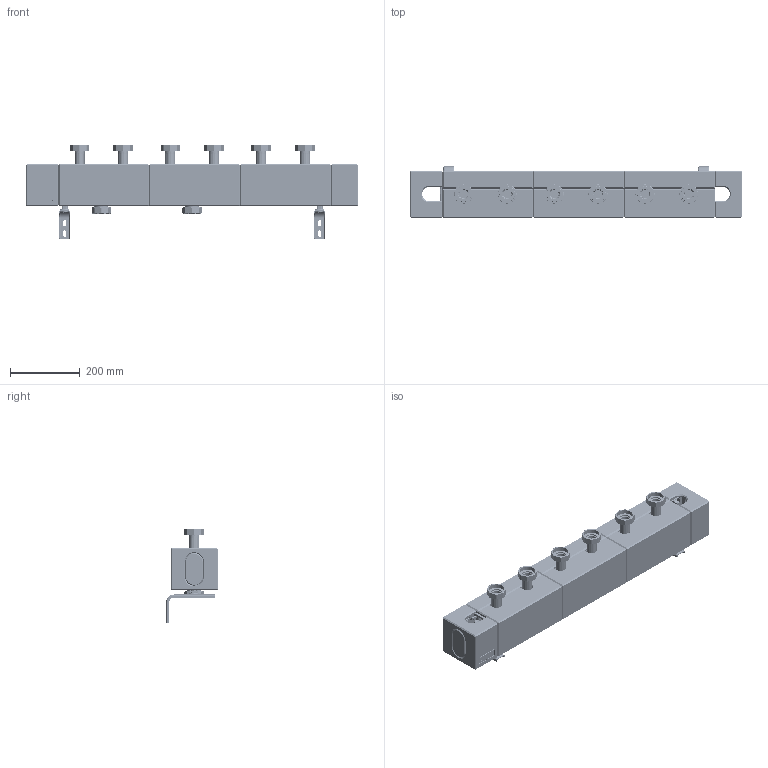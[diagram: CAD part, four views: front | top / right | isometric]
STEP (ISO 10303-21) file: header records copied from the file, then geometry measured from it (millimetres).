
FILE_DESCRIPTION (( 'STEP AP214' ), '1' );
FILE_NAME ('HSM_ProFusion_125-3_Multifunkcyjny_rozdzielacz_79623_0_3D_AFRISO.STEP', '2025-11-18T13:56:13', ( '' ), ( '' ), 'SwSTEP 2.0', 'SolidWorks 2023', '' );
FILE_SCHEMA (( 'AUTOMOTIVE_DESIGN' ));
Length unit declared in the file: millimetre
Products named in the file (46): 05 01 001312_D_X_E4mmung_Verteiler_Endkappe links; Segment rechts_Baugruppe; 05 01 000938_Absteckfeder _X_D828; 05 01 001291_Blechwinkel Wandhalter HSM_2; 05 01 001291_Blechwinkel Wandhalter HSM; 907380 8020_LKS ISO 7380-2 M8X20; Einsteckstutzen_lang_sekund_X_E4r _Baugruppe; Verteiler HSM 125 -3_Baugruppe; HSM_ProFusion_125-3_Multifunkcyjny_rozdzielacz_79623_0_3D_AFRISO; ISO 4032-M8-10_Sechskantmuttern_2; Blindeinsatz; 05 01 001312_D_X_E4mmung_Verteiler_Endkappe_rechts; Translationsteil_0_AEI Logo; Segment mitte_Baugruppe; 05_01_000415_MUTTER_G1_1-2; 1748427030; 05 01 001311_W_X_E4rmed_X_E4mmung HSM 125; 05 01 001285_Einsteckstutzen G1 1_2; 801 030 3002_O-Ring _X_F830,0x3,0mm EPDM 70_X_B15 pe_rox; Translationsteil_1; 05 01 000684_Tr_X_E4gerplatte neutral wei_X_DF (60x2_0); Blindeinsatz_Enkappe; Einsteckstutzen prim_X_E4r_Baugruppe_2; ISO 4032-M8-10_Sechskantmuttern; 05 00 410237__X_DCberwurfmutter G1 1_2 SW52-8kt MS_2; Segment links_Baugruppe; 05 00 410237__X_DCberwurfmutter G1 1_2 SW52-8kt MS; Einsteckstutzen prim_X_E4r_Baugruppe; 05 01 001287_Absteckfeder _X_D833; 907380 8020_LKS ISO 7380-2 M8X20_3; 801 000 0332_O-Ring _X_F826x3,0mm EPDM; 05 01 001288_Einsteckstutzen lang G1 1_2 HSM; 801 030 3002_O-Ring _X_F830,0x3,0mm EPDM 70_X_B15 pe_rox_2; 05 00 410237__X_DCberwurfmutter G1 1_2 SW52-8kt MS_3; 05 01 001311_W_X_E4rmed_X_E4mmung HSM 125 R; 05 01 001278_Wandhalter HSM; 05 01 000794_Tr_X_E4gerplatte wei_X_DF LOGO AFRISO; Verschraubungen Verteiler_Baugruppe; Blindeinsatz_Enkappe_2; 05 01 001312_W_X_E4rmed_X_E4mmung HSM Endkappen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
Assembly tree (56 placements, depth 5):
  HSM_ProFusion_125-3_Multifunkcyjny_rozdzielacz_79623_0_3D_AFRISO
    Verteiler HSM 125 -3_Baugruppe
      Segment links_Baugruppe
        Einsteckstutzen_lang_sekund_X_E4r _Baugruppe  x2
          801 000 0332_O-Ring _X_F826x3,0mm EPDM
          05 00 410237__X_DCberwurfmutter G1 1_2 SW52-8kt MS
          05 01 000938_Absteckfeder _X_D828
          05 01 001288_Einsteckstutzen lang G1 1_2 HSM
        Einsteckstutzen prim_X_E4r_Baugruppe
          801 030 3002_O-Ring _X_F830,0x3,0mm EPDM 70_X_B15 pe_rox
          05 00 410237__X_DCberwurfmutter G1 1_2 SW52-8kt MS_2
          05 01 001287_Absteckfeder _X_D833
          05 01 001285_Einsteckstutzen G1 1_2
      Segment mitte_Baugruppe
        05_01_000415_MUTTER_G1_1-2
        Einsteckstutzen_lang_sekund_X_E4r _Baugruppe  x2
          801 000 0332_O-Ring _X_F826x3,0mm EPDM
          05 00 410237__X_DCberwurfmutter G1 1_2 SW52-8kt MS
          05 01 000938_Absteckfeder _X_D828
          05 01 001288_Einsteckstutzen lang G1 1_2 HSM
        Einsteckstutzen prim_X_E4r_Baugruppe_2
          801 030 3002_O-Ring _X_F830,0x3,0mm EPDM 70_X_B15 pe_rox_2
          05 00 410237__X_DCberwurfmutter G1 1_2 SW52-8kt MS_3
          05 01 001287_Absteckfeder _X_D833
          05 01 001285_Einsteckstutzen G1 1_2
      Segment rechts_Baugruppe
        Einsteckstutzen_lang_sekund_X_E4r _Baugruppe  x2
          801 000 0332_O-Ring _X_F826x3,0mm EPDM
          05 00 410237__X_DCberwurfmutter G1 1_2 SW52-8kt MS
          05 01 000938_Absteckfeder _X_D828
          05 01 001288_Einsteckstutzen lang G1 1_2 HSM
      05 01 001278_Wandhalter HSM  x2
      05 01 001291_Blechwinkel Wandhalter HSM
        05 01 001291_Haltewinkel 82x140
      05 01 001291_Blechwinkel Wandhalter HSM_2
        05 01 001291_Blechwinkel Wandhalter HSM_2
        05 01 001291_Haltewinkel 82x140
      05 01 001311_W_X_E4rmed_X_E4mmung HSM 125  x3
        Blindeinsatz
          Blindeinsatz
          1748427030
        05 01 001311_W_X_E4rmed_X_E4mmung HSM 125
        05 01 001311_W_X_E4rmed_X_E4mmung HSM 125 R
      05 01 001312_W_X_E4rmed_X_E4mmung HSM Endkappen
        05 01 001312_D_X_E4mmung_Verteiler_Endkappe links
          05 01 001312_D_X_E4mmung_Verteiler_Endkappe links
          Blindeinsatz_Enkappe
        05 01 001312_D_X_E4mmung_Verteiler_Endkappe_rechts
          05 01 001312_D_X_E4mmung_Verteiler_Endkappe_rechts
          Blindeinsatz_Enkappe_2
      Verschraubungen Verteiler_Baugruppe
        ISO 4032-M8-10_Sechskantmuttern
        ISO 4032-M8-10_Sechskantmuttern_2
      907380 8020_LKS ISO 7380-2 M8X20
      907380 8020_LKS ISO 7380-2 M8X20_3
      05 01 000794_Tr_X_E4gerplatte wei_X_DF LOGO AFRISO
        Translationsteil_0_AEI Logo
        Translationsteil_1
        05 01 000684_Tr_X_E4gerplatte neutral wei_X_DF (60x2_0)
Bounding box: 951 x 147.55 x 269.82 mm (x, y, z)
Volume: 9099507.9 mm3; surface area: 1391871.4 mm2
Topology: 67 solids, 67 shells, 7265 faces, 18673 edges, 11773 vertices
Faces by surface type: plane 3458, cylinder 2062, bspline 1199, cone 509, torus 37
Entity records: 145251 total; most frequent: CARTESIAN_POINT 55208, ORIENTED_EDGE 19616, DIRECTION 16743, EDGE_CURVE 9808, VERTEX_POINT 6230, LINE 5823, VECTOR 5823, AXIS2_PLACEMENT_3D 5460
